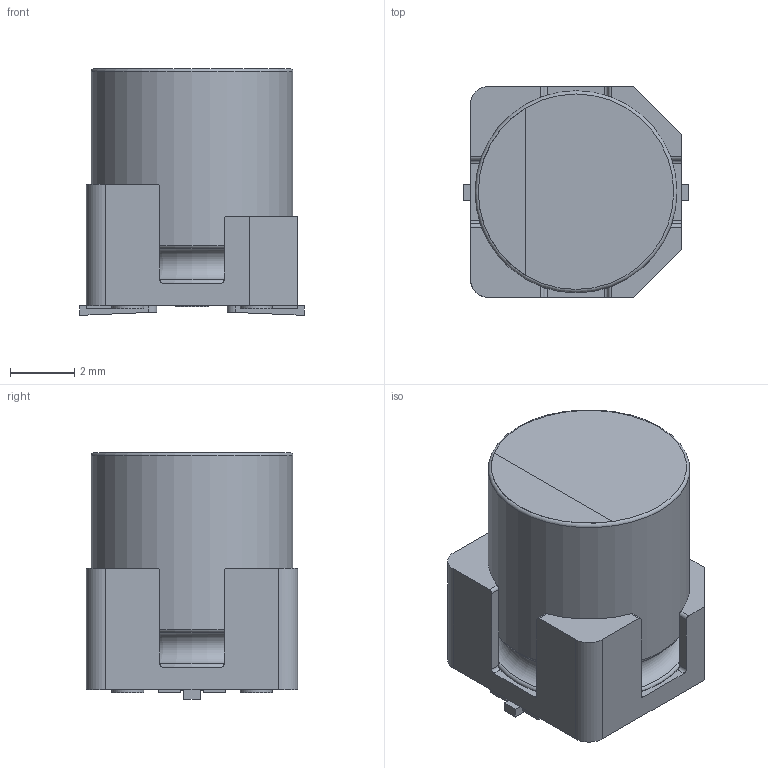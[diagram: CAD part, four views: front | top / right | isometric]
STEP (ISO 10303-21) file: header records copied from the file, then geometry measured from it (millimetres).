
FILE_DESCRIPTION(/* description */ (''),/* implementation_level */ '2;1');
FILE_NAME(/* name */ '6.3x7.7_Chip_耐振品.stp',/* time_stamp */ '2018-03-29T19:03:48+09:00',/* author */ (''),/* organization */ (''),/* preprocessor_version */ 'ST-DEVELOPER v16',/* originating_system */ 'SIEMENS PLM Software NX 11.0',/* authorisation */ '');
FILE_SCHEMA (('AUTOMOTIVE_DESIGN { 1 0 10303 214 3 1 1 1 }'));
Length unit declared in the file: millimetre
Products named in the file (1): 6.3x7.7_Chip_耐振品_1
Bounding box: 7 x 6.6 x 7.7 mm (x, y, z)
Volume: 254.5 mm3; surface area: 411.1 mm2
Topology: 9 solids, 9 shells, 102 faces, 235 edges, 156 vertices
Faces by surface type: plane 64, cylinder 34, torus 4
Full cylindrical faces by diameter (mm): 1 x5, 6.3 x2
Entity records: 3064 total; most frequent: CARTESIAN_POINT 613, DIRECTION 466, ORIENTED_EDGE 442, EDGE_CURVE 221, AXIS2_PLACEMENT_3D 158, VERTEX_POINT 153, LINE 150, VECTOR 150
